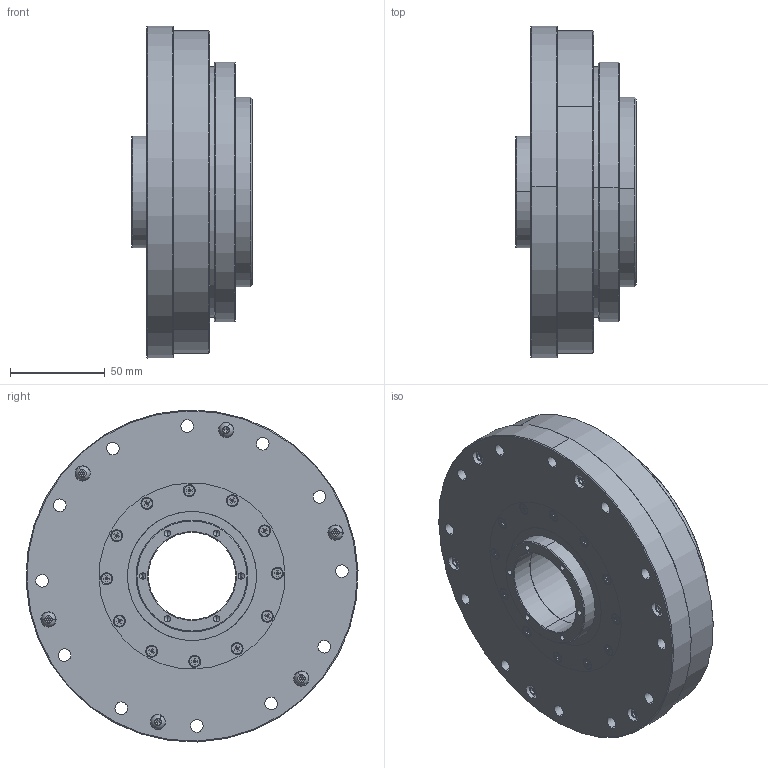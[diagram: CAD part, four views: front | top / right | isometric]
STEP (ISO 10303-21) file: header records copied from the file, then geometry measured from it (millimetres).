
FILE_DESCRIPTION (( 'STEP AP203' ), '1' );
FILE_NAME ('LHD-40-C-III.STEP', '2019-04-15T01:36:41', ( 'User' ), ( 'china' ), 'SwSTEP 2.0', 'SolidWorks 2013', '' );
FILE_SCHEMA (( 'CONFIG_CONTROL_DESIGN' ));
Length unit declared in the file: millimetre
Products named in the file (22): 内六角圆柱头螺钉M5 x 16_内六角圆柱头螺钉M5 x 16; RZC-40S; 15Z-1321467; 囀鞠褒攫芛蹟隊M4X10_GB_SOCKET_TYPE7 M4X10-N; DB-40S-III; LHD-40-C-III; LHD-40-XXX-P06-III; 6812_Rolling bearings 61812 GB 276-94; 囀鞠褒攫芛蹟隊M4X12_GB_SOCKET_TYPE7 M4X10-N; 6912_Rolling bearings 61912 GB 276-94; LHD-40-XXX-P08-III; 轴径 60 （改）_GB_CONNECTING_PIECE_RINGS_CSB 60; LHD-40-XXX-P07-III; LHD-40-XXX-P01-TT; LHD-40-XXX-P03-III; ﾊｮﾗﾖﾇﾐｲﾛｳﾁﾍｷﾂﾝｶ､M3 x 8_ISO 7046-1 - M3 x 8 - Z --- 8C; LHD-40-P04A; RZC-40S内外圈+钢球; 15Z-59685; LHD-40-XXX-P02-III; RZC-40S悵厥殤; 内六角圆柱头螺钉M5 x 12_内六角圆柱头螺钉M5 x 12
Assembly tree (59 placements, depth 3):
  LHD-40-C-III
    LHD-40-XXX-P03-III
    RZC-40S
      RZC-40S内外圈+钢球
      RZC-40S悵厥殤
    DB-40S-III
    6812_Rolling bearings 61812 GB 276-94
    6912_Rolling bearings 61912 GB 276-94
    轴径 60 （改）_GB_CONNECTING_PIECE_RINGS_CSB 60
    LHD-40-XXX-P01-TT
    LHD-40-P04A
    LHD-40-XXX-P02-III
    内六角圆柱头螺钉M5 x 16_内六角圆柱头螺钉M5 x 16  x6
    囀鞠褒攫芛蹟隊M4X10_GB_SOCKET_TYPE7 M4X10-N  x6
    LHD-40-XXX-P06-III
    囀鞠褒攫芛蹟隊M4X12_GB_SOCKET_TYPE7 M4X10-N  x6
    LHD-40-XXX-P08-III
    LHD-40-XXX-P07-III
    ﾊｮﾗﾖﾇﾐｲﾛｳﾁﾍｷﾂﾝｶ､M3 x 8_ISO 7046-1 - M3 x 8 - Z --- 8C  x12
    15Z-59685  x2
    内六角圆柱头螺钉M5 x 12_内六角圆柱头螺钉M5 x 12  x12
    15Z-1321467
Bounding box: 63.5 x 174.91 x 174.91 mm (x, y, z)
Volume: 753269.8 mm3; surface area: 410151.4 mm2
Topology: 83 solids, 83 shells, 2642 faces, 7521 edges, 4729 vertices
Faces by surface type: plane 870, cylinder 740, torus 414, cone 384, sphere 234
Entity records: 62306 total; most frequent: CARTESIAN_POINT 16861, ORIENTED_EDGE 9020, DIRECTION 8981, EDGE_CURVE 4510, AXIS2_PLACEMENT_3D 4012, VERTEX_POINT 2984, CIRCLE 2392, EDGE_LOOP 1942
